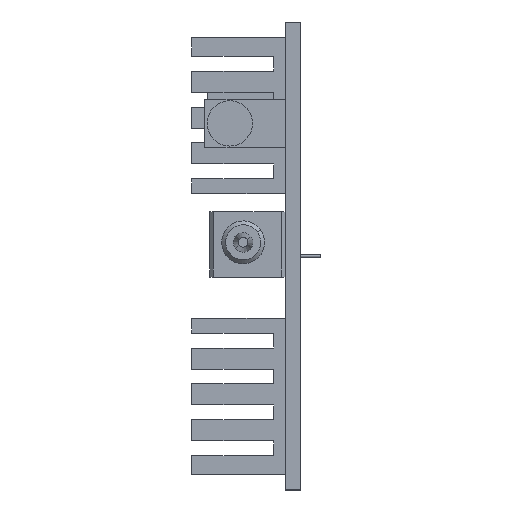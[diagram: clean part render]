
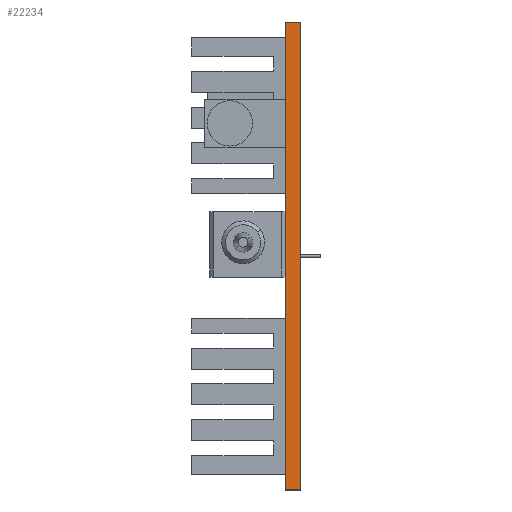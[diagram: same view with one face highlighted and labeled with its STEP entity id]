
A CAD part, left-side view. The second image highlights one B-rep face of the part: STEP entity #22234.
In plain terms, the highlighted planar face has unit normal (-1, 0, 0).
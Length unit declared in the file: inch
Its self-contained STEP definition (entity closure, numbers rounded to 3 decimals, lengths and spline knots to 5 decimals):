
#561 = CARTESIAN_POINT ( 'NONE',  ( -1.9685, 0.07874, 1.1811 ) ) ;
#1788 = CARTESIAN_POINT ( 'NONE',  ( -1.9685, 0., 1.1811 ) ) ;
#2172 = VECTOR ( 'NONE', #13272, 39.37008 ) ;
#5215 = LINE ( 'NONE', #6799, #2172 ) ;
#5289 = VECTOR ( 'NONE', #23235, 39.37008 ) ;
#5427 = VERTEX_POINT ( 'NONE', #20933 ) ;
#6799 = CARTESIAN_POINT ( 'NONE',  ( -1.9685, 0.07874, -1.1811 ) ) ;
#6915 = DIRECTION ( 'NONE',  ( 0., 0., -1. ) ) ;
#7000 = ORIENTED_EDGE ( 'NONE', *, *, #20790, .F. ) ;
#7537 = EDGE_CURVE ( 'NONE', #23170, #10230, #5215, .T. ) ;
#10047 = CARTESIAN_POINT ( 'NONE',  ( -1.9685, 0.07874, -1.1811 ) ) ;
#10230 = VERTEX_POINT ( 'NONE', #20115 ) ;
#10423 = DIRECTION ( 'NONE',  ( 0., 0., 1. ) ) ;
#11596 = AXIS2_PLACEMENT_3D ( 'NONE', #23812, #26178, #6915 ) ;
#12035 = LINE ( 'NONE', #561, #15733 ) ;
#13272 = DIRECTION ( 'NONE',  ( 0., -1., 0. ) ) ;
#13289 = PLANE ( 'NONE',  #11596 ) ;
#13526 = DIRECTION ( 'NONE',  ( 0., 0., 1. ) ) ;
#15733 = VECTOR ( 'NONE', #13526, 39.37008 ) ;
#16418 = EDGE_LOOP ( 'NONE', ( #17348, #7000, #23755, #27026 ) ) ;
#17348 = ORIENTED_EDGE ( 'NONE', *, *, #17513, .T. ) ;
#17513 = EDGE_CURVE ( 'NONE', #10230, #22264, #22262, .T. ) ;
#17743 = LINE ( 'NONE', #25412, #5289 ) ;
#19933 = EDGE_CURVE ( 'NONE', #23170, #5427, #12035, .T. ) ;
#20115 = CARTESIAN_POINT ( 'NONE',  ( -1.9685, 0., -1.1811 ) ) ;
#20790 = EDGE_CURVE ( 'NONE', #5427, #22264, #17743, .T. ) ;
#20933 = CARTESIAN_POINT ( 'NONE',  ( -1.9685, 0.07874, 1.1811 ) ) ;
#21172 = FACE_OUTER_BOUND ( 'NONE', #16418, .T. ) ;
#21921 = CARTESIAN_POINT ( 'NONE',  ( -1.9685, 0., 1.1811 ) ) ;
#22234 = ADVANCED_FACE ( 'NONE', ( #21172 ), #13289, .F. ) ;
#22262 = LINE ( 'NONE', #1788, #27338 ) ;
#22264 = VERTEX_POINT ( 'NONE', #21921 ) ;
#23170 = VERTEX_POINT ( 'NONE', #10047 ) ;
#23235 = DIRECTION ( 'NONE',  ( 0., -1., 0. ) ) ;
#23755 = ORIENTED_EDGE ( 'NONE', *, *, #19933, .F. ) ;
#23812 = CARTESIAN_POINT ( 'NONE',  ( -1.9685, 0.07874, 1.1811 ) ) ;
#25412 = CARTESIAN_POINT ( 'NONE',  ( -1.9685, 0.07874, 1.1811 ) ) ;
#26178 = DIRECTION ( 'NONE',  ( 1., 0., 0. ) ) ;
#27026 = ORIENTED_EDGE ( 'NONE', *, *, #7537, .T. ) ;
#27338 = VECTOR ( 'NONE', #10423, 39.37008 ) ;
